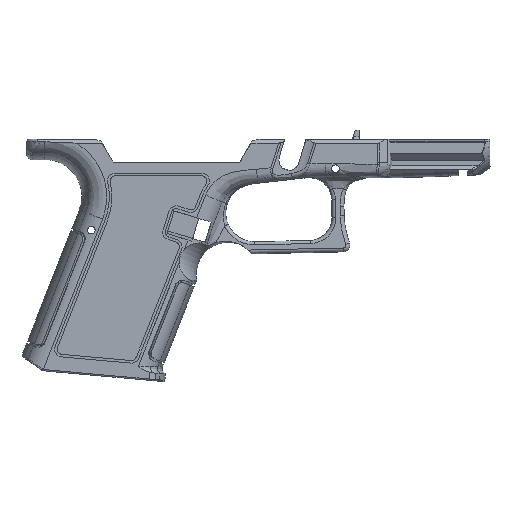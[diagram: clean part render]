
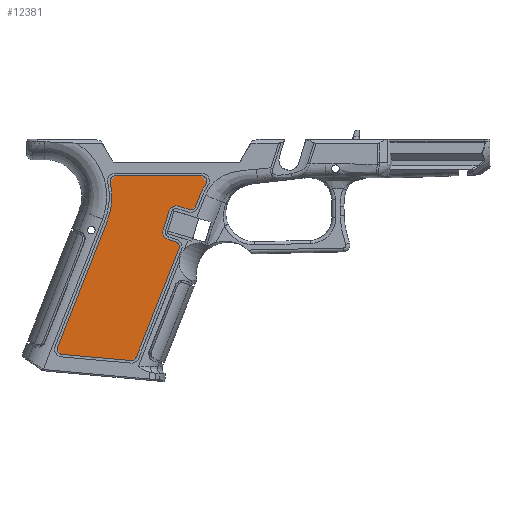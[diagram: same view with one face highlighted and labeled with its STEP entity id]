
A CAD part, front view. The second image highlights one B-rep face of the part: STEP entity #12381.
In plain terms, the highlighted planar face has unit normal (0, -1, 0) as drawn and (0, 0, 1) by its records, which use the part's own axes.
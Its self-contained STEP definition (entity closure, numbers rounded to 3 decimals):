
#608=PLANE('',#13320);
#1028=LINE('',#22586,#1816);
#1202=LINE('',#29797,#1990);
#1203=LINE('',#29803,#1991);
#1204=LINE('',#29808,#1992);
#1205=LINE('',#29810,#1993);
#1206=LINE('',#29814,#1994);
#1207=LINE('',#29818,#1995);
#1208=LINE('',#29822,#1996);
#1209=LINE('',#29826,#1997);
#1816=VECTOR('',#14777,10.);
#1990=VECTOR('',#15385,10.);
#1991=VECTOR('',#15390,10.);
#1992=VECTOR('',#15395,10.);
#1993=VECTOR('',#15396,10.);
#1994=VECTOR('',#15399,10.);
#1995=VECTOR('',#15402,10.);
#1996=VECTOR('',#15405,10.);
#1997=VECTOR('',#15408,10.);
#2781=FACE_OUTER_BOUND('',#3467,.T.);
#3467=EDGE_LOOP('',(#10151,#10152,#10153,#10154,#10155,#10156,#10157,#10158,
#10159,#10160,#10161,#10162,#10163,#10164,#10165,#10166,#10167,#10168,#10169));
#4076=CIRCLE('',#13321,2.);
#4077=CIRCLE('',#13322,26.009);
#4078=CIRCLE('',#13323,2.);
#4079=CIRCLE('',#13324,2.);
#4080=CIRCLE('',#13325,2.);
#4081=CIRCLE('',#13326,3.);
#4082=CIRCLE('',#13327,3.);
#4083=CIRCLE('',#13328,2.);
#4084=CIRCLE('',#13329,2.);
#4588=B_SPLINE_CURVE_WITH_KNOTS('',3,(#29828,#29829,#29830,#29831),
 .UNSPECIFIED.,.F.,.F.,(4,4),(0.,0.416),.UNSPECIFIED.);
#5337=VERTEX_POINT('',#22583);
#5338=VERTEX_POINT('',#22585);
#5711=VERTEX_POINT('',#29795);
#5712=VERTEX_POINT('',#29796);
#5713=VERTEX_POINT('',#29798);
#5714=VERTEX_POINT('',#29800);
#5715=VERTEX_POINT('',#29802);
#5716=VERTEX_POINT('',#29805);
#5717=VERTEX_POINT('',#29807);
#5718=VERTEX_POINT('',#29809);
#5719=VERTEX_POINT('',#29811);
#5720=VERTEX_POINT('',#29813);
#5721=VERTEX_POINT('',#29815);
#5722=VERTEX_POINT('',#29817);
#5723=VERTEX_POINT('',#29819);
#5724=VERTEX_POINT('',#29821);
#5725=VERTEX_POINT('',#29823);
#5726=VERTEX_POINT('',#29825);
#5727=VERTEX_POINT('',#29827);
#6826=EDGE_CURVE('',#5338,#5337,#1028,.T.);
#7345=EDGE_CURVE('',#5711,#5712,#1202,.T.);
#7346=EDGE_CURVE('',#5712,#5713,#4076,.T.);
#7347=EDGE_CURVE('',#5713,#5714,#4077,.T.);
#7348=EDGE_CURVE('',#5714,#5715,#1203,.T.);
#7349=EDGE_CURVE('',#5715,#5338,#4078,.T.);
#7350=EDGE_CURVE('',#5337,#5716,#4079,.T.);
#7351=EDGE_CURVE('',#5716,#5717,#1204,.T.);
#7352=EDGE_CURVE('',#5717,#5718,#1205,.T.);
#7353=EDGE_CURVE('',#5719,#5718,#4080,.T.);
#7354=EDGE_CURVE('',#5719,#5720,#1206,.T.);
#7355=EDGE_CURVE('',#5721,#5720,#4081,.T.);
#7356=EDGE_CURVE('',#5721,#5722,#1207,.T.);
#7357=EDGE_CURVE('',#5723,#5722,#4082,.T.);
#7358=EDGE_CURVE('',#5723,#5724,#1208,.T.);
#7359=EDGE_CURVE('',#5725,#5724,#4083,.T.);
#7360=EDGE_CURVE('',#5725,#5726,#1209,.T.);
#7361=EDGE_CURVE('',#5726,#5727,#4588,.T.);
#7362=EDGE_CURVE('',#5727,#5711,#4084,.T.);
#10151=ORIENTED_EDGE('',*,*,#7345,.T.);
#10152=ORIENTED_EDGE('',*,*,#7346,.T.);
#10153=ORIENTED_EDGE('',*,*,#7347,.T.);
#10154=ORIENTED_EDGE('',*,*,#7348,.T.);
#10155=ORIENTED_EDGE('',*,*,#7349,.T.);
#10156=ORIENTED_EDGE('',*,*,#6826,.T.);
#10157=ORIENTED_EDGE('',*,*,#7350,.T.);
#10158=ORIENTED_EDGE('',*,*,#7351,.T.);
#10159=ORIENTED_EDGE('',*,*,#7352,.T.);
#10160=ORIENTED_EDGE('',*,*,#7353,.F.);
#10161=ORIENTED_EDGE('',*,*,#7354,.T.);
#10162=ORIENTED_EDGE('',*,*,#7355,.F.);
#10163=ORIENTED_EDGE('',*,*,#7356,.T.);
#10164=ORIENTED_EDGE('',*,*,#7357,.F.);
#10165=ORIENTED_EDGE('',*,*,#7358,.T.);
#10166=ORIENTED_EDGE('',*,*,#7359,.F.);
#10167=ORIENTED_EDGE('',*,*,#7360,.T.);
#10168=ORIENTED_EDGE('',*,*,#7361,.T.);
#10169=ORIENTED_EDGE('',*,*,#7362,.T.);
#12381=ADVANCED_FACE('',(#2781),#608,.T.);
#13320=AXIS2_PLACEMENT_3D('',#29794,#15383,#15384);
#13321=AXIS2_PLACEMENT_3D('',#29799,#15386,#15387);
#13322=AXIS2_PLACEMENT_3D('',#29801,#15388,#15389);
#13323=AXIS2_PLACEMENT_3D('',#29804,#15391,#15392);
#13324=AXIS2_PLACEMENT_3D('',#29806,#15393,#15394);
#13325=AXIS2_PLACEMENT_3D('',#29812,#15397,#15398);
#13326=AXIS2_PLACEMENT_3D('',#29816,#15400,#15401);
#13327=AXIS2_PLACEMENT_3D('',#29820,#15403,#15404);
#13328=AXIS2_PLACEMENT_3D('',#29824,#15406,#15407);
#13329=AXIS2_PLACEMENT_3D('',#29832,#15409,#15410);
#14777=DIRECTION('',(0.996,-0.089,0.));
#15383=DIRECTION('center_axis',(0.,0.,1.));
#15384=DIRECTION('ref_axis',(1.,0.,0.));
#15385=DIRECTION('',(-1.,0.,0.));
#15386=DIRECTION('center_axis',(0.,0.,1.));
#15387=DIRECTION('ref_axis',(0.,1.,0.));
#15388=DIRECTION('center_axis',(0.,0.,-1.));
#15389=DIRECTION('ref_axis',(0.93,-0.367,0.));
#15390=DIRECTION('',(-0.367,-0.93,0.));
#15391=DIRECTION('center_axis',(0.,0.,1.));
#15392=DIRECTION('ref_axis',(-0.93,0.367,0.));
#15393=DIRECTION('center_axis',(0.,0.,1.));
#15394=DIRECTION('ref_axis',(-0.089,-0.996,0.));
#15395=DIRECTION('',(0.367,0.93,0.));
#15396=DIRECTION('',(0.366,0.93,0.));
#15397=DIRECTION('center_axis',(0.,0.,-1.));
#15398=DIRECTION('ref_axis',(0.99,-0.14,0.));
#15399=DIRECTION('',(-0.954,0.301,0.));
#15400=DIRECTION('center_axis',(0.,0.,1.));
#15401=DIRECTION('ref_axis',(-0.887,-0.462,0.));
#15402=DIRECTION('',(0.301,0.954,0.));
#15403=DIRECTION('center_axis',(0.,0.,1.));
#15404=DIRECTION('ref_axis',(-0.462,0.887,0.));
#15405=DIRECTION('',(0.954,-0.301,0.));
#15406=DIRECTION('center_axis',(0.,0.,-1.));
#15407=DIRECTION('ref_axis',(0.431,-0.903,0.));
#15408=DIRECTION('',(0.367,0.93,0.));
#15409=DIRECTION('center_axis',(0.,0.,1.));
#15410=DIRECTION('ref_axis',(0.891,0.453,0.));
#22583=CARTESIAN_POINT('',(32.17,-87.911,14.4));
#22585=CARTESIAN_POINT('',(5.305,-85.512,14.4));
#22586=CARTESIAN_POINT('',(-1.115,-84.939,14.4));
#29794=CARTESIAN_POINT('Origin',(0.,0.,14.4));
#29795=CARTESIAN_POINT('',(59.654,-16.193,14.4));
#29796=CARTESIAN_POINT('',(26.093,-16.193,14.4));
#29797=CARTESIAN_POINT('',(29.827,-16.193,14.4));
#29798=CARTESIAN_POINT('',(24.14,-18.623,14.4));
#29799=CARTESIAN_POINT('Origin',(26.093,-18.193,14.4));
#29800=CARTESIAN_POINT('',(22.939,-33.748,14.4));
#29801=CARTESIAN_POINT('Origin',(-1.261,-24.216,14.4));
#29802=CARTESIAN_POINT('',(3.622,-82.787,14.4));
#29803=CARTESIAN_POINT('',(27.152,-23.052,14.4));
#29804=CARTESIAN_POINT('Origin',(5.483,-83.52,14.4));
#29805=CARTESIAN_POINT('',(34.209,-86.652,14.4));
#29806=CARTESIAN_POINT('Origin',(32.348,-85.919,14.4));
#29807=CARTESIAN_POINT('',(36.73,-80.252,14.4));
#29808=CARTESIAN_POINT('',(46.685,-54.978,14.4));
#29809=CARTESIAN_POINT('',(50.99,-44.041,14.4));
#29810=CARTESIAN_POINT('',(47.944,-51.774,14.4));
#29811=CARTESIAN_POINT('',(49.611,-41.853,14.4));
#29812=CARTESIAN_POINT('Origin',(49.01,-43.76,14.4));
#29813=CARTESIAN_POINT('',(46.609,-40.906,14.4));
#29814=CARTESIAN_POINT('',(22.044,-33.161,14.4));
#29815=CARTESIAN_POINT('',(44.65,-37.143,14.4));
#29816=CARTESIAN_POINT('Origin',(47.511,-38.045,14.4));
#29817=CARTESIAN_POINT('',(46.914,-29.964,14.4));
#29818=CARTESIAN_POINT('',(47.506,-28.084,14.4));
#29819=CARTESIAN_POINT('',(50.677,-28.005,14.4));
#29820=CARTESIAN_POINT('Origin',(49.775,-30.866,14.4));
#29821=CARTESIAN_POINT('',(54.795,-29.304,14.4));
#29822=CARTESIAN_POINT('',(22.183,-19.021,14.4));
#29823=CARTESIAN_POINT('',(57.257,-28.129,14.4));
#29824=CARTESIAN_POINT('Origin',(55.397,-27.396,14.4));
#29825=CARTESIAN_POINT('',(59.277,-23.003,14.4));
#29826=CARTESIAN_POINT('',(57.866,-26.584,14.4));
#29827=CARTESIAN_POINT('',(61.271,-19.371,14.4));
#29828=CARTESIAN_POINT('Ctrl Pts',(59.277,-23.003,14.4));
#29829=CARTESIAN_POINT('Ctrl Pts',(59.798,-21.679,14.4));
#29830=CARTESIAN_POINT('Ctrl Pts',(60.477,-20.46,14.4));
#29831=CARTESIAN_POINT('Ctrl Pts',(61.271,-19.371,14.4));
#29832=CARTESIAN_POINT('Origin',(59.654,-18.193,14.4));
